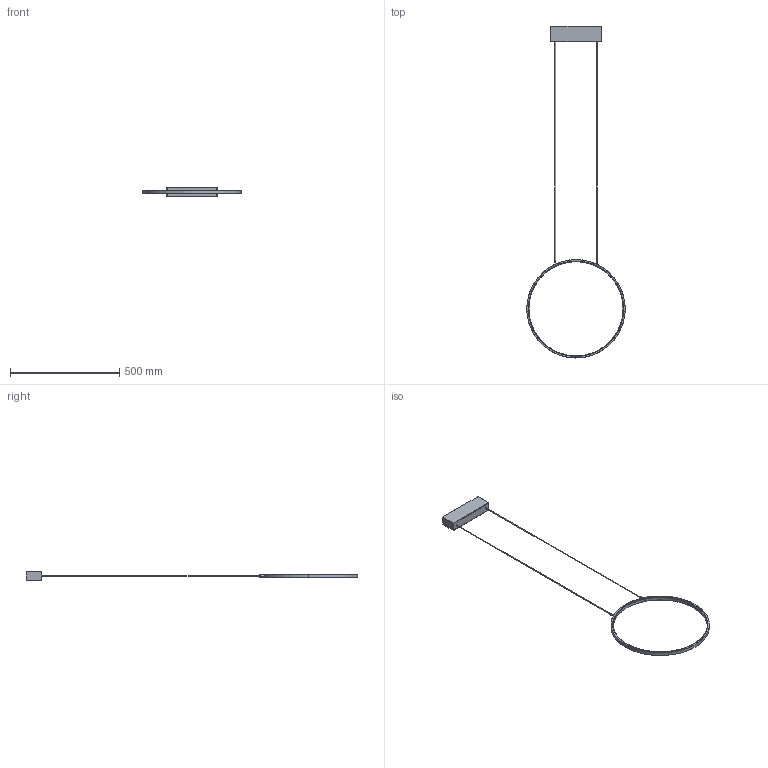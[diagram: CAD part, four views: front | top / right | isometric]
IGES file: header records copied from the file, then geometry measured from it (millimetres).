
Start section: SolidWorks IGES file using analytic representation for surfaces
Global section: file name: Y:\PRODUKT\Modele 3D_WWW\_KOLEKCJE WWW\CIRCOLO\10810-10860\CIRCOLO-LED-10810-10860.IGS; native system: SolidWorks 2023; preprocessor: SolidWorks 2023; author: wioleta.imiolczyk; date: 230525.145820; units: millimetre
Bounding box: 450 x 1518 x 41 mm (x, y, z)
Surface area: 183025.7 mm2 (no closed solid volume)
Topology: 0 solids, 0 shells, 67 faces, 1088 edges, 1088 vertices
Faces by surface type: bspline 41, revolution 26
